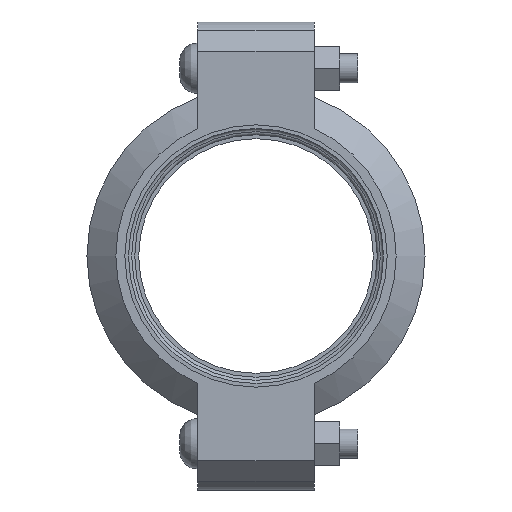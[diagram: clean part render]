
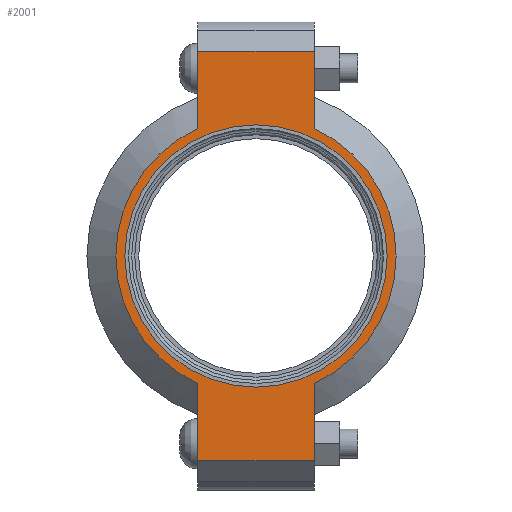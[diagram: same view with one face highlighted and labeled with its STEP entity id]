
A CAD part, left-side view. The second image highlights one B-rep face of the part: STEP entity #2001.
In plain terms, the highlighted planar face has unit normal (-1, 0, 0) as drawn and (0, 0, 1) by its records, which use the part's own axes.
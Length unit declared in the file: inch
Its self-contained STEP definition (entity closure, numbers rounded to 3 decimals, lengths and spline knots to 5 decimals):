
#134=LINE('',#3570,#233);
#142=LINE('',#3606,#241);
#149=LINE('',#3627,#248);
#158=LINE('',#3659,#257);
#159=LINE('',#3663,#258);
#160=LINE('',#3665,#259);
#233=VECTOR('',#2932,0.3937);
#241=VECTOR('',#2948,0.3937);
#248=VECTOR('',#2967,0.3937);
#257=VECTOR('',#2992,0.3937);
#258=VECTOR('',#2997,0.3937);
#259=VECTOR('',#2998,0.3937);
#319=FACE_BOUND('',#589,.T.);
#365=PLANE('',#2366);
#461=FACE_OUTER_BOUND('',#588,.T.);
#588=EDGE_LOOP('',(#1730,#1731,#1732,#1733,#1734,#1735,#1736,#1737));
#589=EDGE_LOOP('',(#1738));
#736=CIRCLE('',#2308,2.25);
#762=CIRCLE('',#2367,2.405);
#763=CIRCLE('',#2368,2.405);
#887=VERTEX_POINT('',#3386);
#930=VERTEX_POINT('',#3567);
#931=VERTEX_POINT('',#3569);
#942=VERTEX_POINT('',#3601);
#943=VERTEX_POINT('',#3605);
#950=VERTEX_POINT('',#3624);
#951=VERTEX_POINT('',#3626);
#961=VERTEX_POINT('',#3662);
#962=VERTEX_POINT('',#3664);
#1124=EDGE_CURVE('',#887,#887,#736,.T.);
#1185=EDGE_CURVE('',#931,#930,#134,.T.);
#1199=EDGE_CURVE('',#943,#942,#142,.T.);
#1209=EDGE_CURVE('',#951,#950,#149,.T.);
#1224=EDGE_CURVE('',#943,#930,#158,.T.);
#1225=EDGE_CURVE('',#942,#951,#762,.T.);
#1226=EDGE_CURVE('',#961,#950,#159,.T.);
#1227=EDGE_CURVE('',#961,#962,#160,.T.);
#1228=EDGE_CURVE('',#962,#931,#763,.T.);
#1730=ORIENTED_EDGE('',*,*,#1224,.F.);
#1731=ORIENTED_EDGE('',*,*,#1199,.T.);
#1732=ORIENTED_EDGE('',*,*,#1225,.T.);
#1733=ORIENTED_EDGE('',*,*,#1209,.T.);
#1734=ORIENTED_EDGE('',*,*,#1226,.F.);
#1735=ORIENTED_EDGE('',*,*,#1227,.T.);
#1736=ORIENTED_EDGE('',*,*,#1228,.T.);
#1737=ORIENTED_EDGE('',*,*,#1185,.T.);
#1738=ORIENTED_EDGE('',*,*,#1124,.T.);
#2001=ADVANCED_FACE('',(#461,#319),#365,.T.);
#2308=AXIS2_PLACEMENT_3D('',#3388,#2808,#2809);
#2366=AXIS2_PLACEMENT_3D('',#3660,#2993,#2994);
#2367=AXIS2_PLACEMENT_3D('',#3661,#2995,#2996);
#2368=AXIS2_PLACEMENT_3D('',#3666,#2999,#3000);
#2808=DIRECTION('center_axis',(0.,0.,-1.));
#2809=DIRECTION('ref_axis',(1.,0.,0.));
#2932=DIRECTION('',(1.,0.,0.));
#2948=DIRECTION('',(-1.,0.,0.));
#2967=DIRECTION('',(-1.,0.,0.));
#2992=DIRECTION('',(0.,-1.,0.));
#2993=DIRECTION('center_axis',(0.,0.,1.));
#2994=DIRECTION('ref_axis',(-1.,0.,0.));
#2995=DIRECTION('center_axis',(0.,0.,1.));
#2996=DIRECTION('ref_axis',(1.,0.,0.));
#2997=DIRECTION('',(0.,1.,0.));
#2998=DIRECTION('',(1.,0.,0.));
#2999=DIRECTION('center_axis',(0.,0.,1.));
#3000=DIRECTION('ref_axis',(1.,0.,0.));
#3386=CARTESIAN_POINT('',(-2.25,0.,1.065));
#3388=CARTESIAN_POINT('Origin',(0.,0.,1.065));
#3567=CARTESIAN_POINT('',(3.515,-1.,1.065));
#3569=CARTESIAN_POINT('',(2.18724,-1.,1.065));
#3570=CARTESIAN_POINT('',(4.015,-1.,1.065));
#3601=CARTESIAN_POINT('',(2.18724,1.,1.065));
#3605=CARTESIAN_POINT('',(3.515,1.,1.065));
#3606=CARTESIAN_POINT('',(-4.015,1.,1.065));
#3624=CARTESIAN_POINT('',(-3.515,1.,1.065));
#3626=CARTESIAN_POINT('',(-2.18724,1.,1.065));
#3627=CARTESIAN_POINT('',(-4.015,1.,1.065));
#3659=CARTESIAN_POINT('',(3.515,-0.5,1.065));
#3660=CARTESIAN_POINT('Origin',(0.,0.,
1.065));
#3661=CARTESIAN_POINT('Origin',(0.,0.,1.065));
#3662=CARTESIAN_POINT('',(-3.515,-1.,1.065));
#3663=CARTESIAN_POINT('',(-3.515,0.5,1.065));
#3664=CARTESIAN_POINT('',(-2.18724,-1.,1.065));
#3665=CARTESIAN_POINT('',(4.015,-1.,1.065));
#3666=CARTESIAN_POINT('Origin',(0.,0.,1.065));
